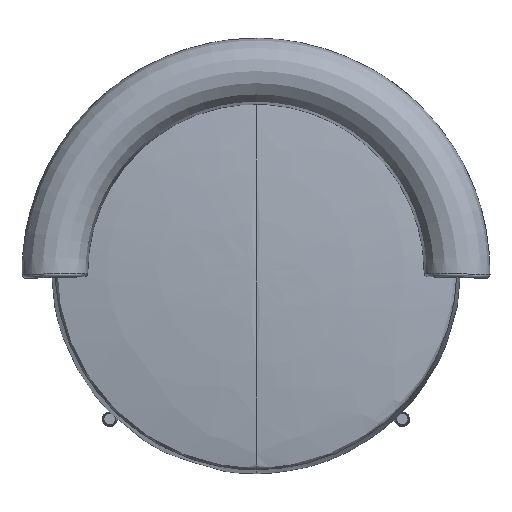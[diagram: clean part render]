
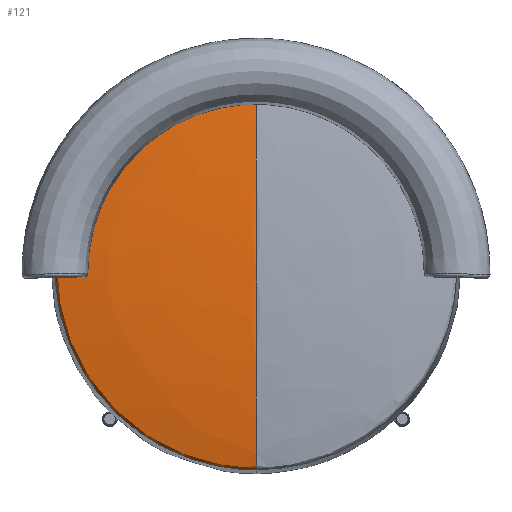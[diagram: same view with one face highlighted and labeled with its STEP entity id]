
A CAD part, top view. The second image highlights one B-rep face of the part: STEP entity #121.
In plain terms, the highlighted free-form (B-spline) face has degree [2, 2] with [5, 5] control points.
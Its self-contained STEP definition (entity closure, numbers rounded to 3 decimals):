
#121=ADVANCED_FACE('',(#226),#1499,.T.);
#226=FACE_OUTER_BOUND('',#339,.T.);
#339=EDGE_LOOP('',(#753,#754,#755));
#753=ORIENTED_EDGE('',*,*,#1012,.T.);
#754=ORIENTED_EDGE('',*,*,#1011,.T.);
#755=ORIENTED_EDGE('',*,*,#1007,.F.);
#1007=EDGE_CURVE('',#1383,#1385,#1236,.T.);
#1011=EDGE_CURVE('',#1386,#1385,#1240,.T.);
#1012=EDGE_CURVE('',#1383,#1386,#1241,.T.);
#1236=(
BOUNDED_CURVE()
B_SPLINE_CURVE(2,(#4073,#4074,#4075,#4076,#4077),.UNSPECIFIED.,.F.,.F.)
B_SPLINE_CURVE_WITH_KNOTS((3,2,3),(11.243,37.971,39.176),
 .UNSPECIFIED.)
CURVE()
GEOMETRIC_REPRESENTATION_ITEM()
RATIONAL_B_SPLINE_CURVE((1.,0.998,1.,0.824,1.))
REPRESENTATION_ITEM('')
);
#1240=(
BOUNDED_CURVE()
B_SPLINE_CURVE(2,(#4125,#4126,#4127,#4128,#4129),.UNSPECIFIED.,.F.,.F.)
B_SPLINE_CURVE_WITH_KNOTS((3,2,3),(879.597,1319.395,1759.193),
 .UNSPECIFIED.)
CURVE()
GEOMETRIC_REPRESENTATION_ITEM()
RATIONAL_B_SPLINE_CURVE((1.,0.707,1.,0.707,1.))
REPRESENTATION_ITEM('')
);
#1241=(
BOUNDED_CURVE()
B_SPLINE_CURVE(2,(#4130,#4131,#4132,#4133,#4134),.UNSPECIFIED.,.F.,.F.)
B_SPLINE_CURVE_WITH_KNOTS((3,2,3),(11.243,37.971,39.176),
 .UNSPECIFIED.)
CURVE()
GEOMETRIC_REPRESENTATION_ITEM()
RATIONAL_B_SPLINE_CURVE((1.,0.998,1.,0.824,1.))
REPRESENTATION_ITEM('')
);
#1383=VERTEX_POINT('',#4069);
#1385=VERTEX_POINT('',#4071);
#1386=VERTEX_POINT('',#4072);
#1499=(
BOUNDED_SURFACE()
B_SPLINE_SURFACE(2,2,((#4044,#4045,#4046,#4047,#4048),(#4049,#4050,#4051,
#4052,#4053),(#4054,#4055,#4056,#4057,#4058),(#4059,#4060,#4061,#4062,#4063),
(#4064,#4065,#4066,#4067,#4068)),.UNSPECIFIED.,.F.,.F.,.F.)
B_SPLINE_SURFACE_WITH_KNOTS((3,2,3),(3,2,3),(11.243,37.971,
39.176),(879.597,1319.395,1759.193),
 .UNSPECIFIED.)
GEOMETRIC_REPRESENTATION_ITEM()
RATIONAL_B_SPLINE_SURFACE(((1.,0.707,1.,0.707,1.),
(0.998,0.705,0.998,0.705,
0.998),(1.,0.707,1.,0.707,1.),(0.824,
0.583,0.824,0.583,0.824),
(1.,0.707,1.,0.707,1.)))
REPRESENTATION_ITEM('')
SURFACE()
);
#4044=CARTESIAN_POINT('',(0.,279.999,410.));
#4045=CARTESIAN_POINT('',(0.,279.999,410.));
#4046=CARTESIAN_POINT('',(0.,279.999,410.));
#4047=CARTESIAN_POINT('',(0.,279.999,410.));
#4048=CARTESIAN_POINT('',(0.,279.999,410.));
#4049=CARTESIAN_POINT('',(0.,413.861,410.));
#4050=CARTESIAN_POINT('',(-133.862,413.861,410.));
#4051=CARTESIAN_POINT('',(-133.862,279.999,410.));
#4052=CARTESIAN_POINT('',(-133.862,146.138,410.));
#4053=CARTESIAN_POINT('',(0.,146.138,410.));
#4054=CARTESIAN_POINT('',(0.,546.401,392.178));
#4055=CARTESIAN_POINT('',(-266.402,546.401,392.178));
#4056=CARTESIAN_POINT('',(-266.402,279.999,392.178));
#4057=CARTESIAN_POINT('',(-266.402,13.598,392.178));
#4058=CARTESIAN_POINT('',(0.,13.598,392.178));
#4059=CARTESIAN_POINT('',(0.,553.214,391.262));
#4060=CARTESIAN_POINT('',(-273.214,553.214,391.262));
#4061=CARTESIAN_POINT('',(-273.214,279.999,391.262));
#4062=CARTESIAN_POINT('',(-273.214,6.785,391.262));
#4063=CARTESIAN_POINT('',(0.,6.785,391.262));
#4064=CARTESIAN_POINT('',(0.,554.748,384.891));
#4065=CARTESIAN_POINT('',(-274.748,554.748,384.891));
#4066=CARTESIAN_POINT('',(-274.748,279.999,384.891));
#4067=CARTESIAN_POINT('',(-274.748,5.251,384.891));
#4068=CARTESIAN_POINT('',(0.,5.251,384.891));
#4069=CARTESIAN_POINT('',(0.,279.999,410.));
#4071=CARTESIAN_POINT('',(0.,5.251,384.891));
#4072=CARTESIAN_POINT('',(0.,554.748,384.891));
#4073=CARTESIAN_POINT('',(0.,279.999,410.));
#4074=CARTESIAN_POINT('',(0.,146.138,410.));
#4075=CARTESIAN_POINT('',(0.,13.598,392.178));
#4076=CARTESIAN_POINT('',(0.,6.785,391.262));
#4077=CARTESIAN_POINT('',(0.,5.251,384.891));
#4125=CARTESIAN_POINT('',(0.,554.748,384.891));
#4126=CARTESIAN_POINT('',(-274.748,554.748,384.891));
#4127=CARTESIAN_POINT('',(-274.748,279.999,384.891));
#4128=CARTESIAN_POINT('',(-274.748,5.251,384.891));
#4129=CARTESIAN_POINT('',(0.,5.251,384.891));
#4130=CARTESIAN_POINT('',(0.,279.999,410.));
#4131=CARTESIAN_POINT('',(0.,413.861,410.));
#4132=CARTESIAN_POINT('',(0.,546.401,392.178));
#4133=CARTESIAN_POINT('',(0.,553.214,391.262));
#4134=CARTESIAN_POINT('',(0.,554.748,384.891));
